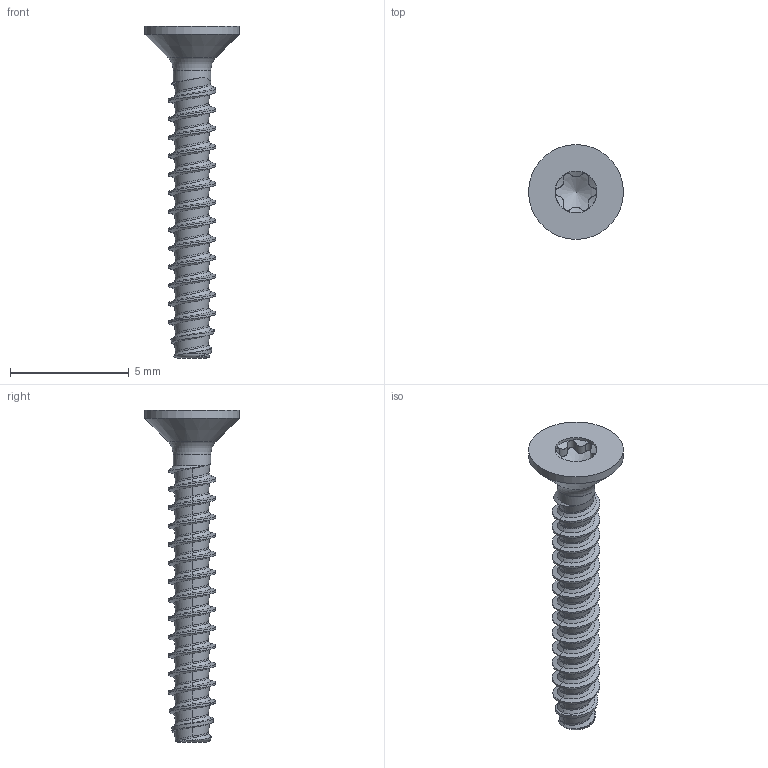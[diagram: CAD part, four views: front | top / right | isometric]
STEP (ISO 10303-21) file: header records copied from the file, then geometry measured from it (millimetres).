
FILE_DESCRIPTION(/* description */ (''),/* implementation_level */ '2;1');
FILE_NAME(/* name */ 'KN6041-STSplus-20x14-T6.step',/* time_stamp */ '2017-10-12T09:09:32+02:00',/* author */ (''),/* organization */ (''),/* preprocessor_version */ 'ST-DEVELOPER v16',/* originating_system */ 'SIEMENS PLM Software NX 10.0',/* authorisation */ '');
FILE_SCHEMA (('AUTOMOTIVE_DESIGN { 1 0 10303 214 3 1 1 1 }'));
Length unit declared in the file: millimetre
Products named in the file (1): KN6041-STSplus-20x14-T6
Bounding box: 4 x 4 x 14 mm (x, y, z)
Volume: 34 mm3; surface area: 127.2 mm2
Topology: 1 solids, 1 shells, 90 faces, 231 edges, 143 vertices
Faces by surface type: bspline 64, cylinder 17, cone 5, torus 2, plane 2
Full cylindrical faces by diameter (mm): 1.58 x1, 1.77 x1, 4 x1
Entity records: 6817 total; most frequent: CARTESIAN_POINT 5154, ORIENTED_EDGE 432, EDGE_CURVE 216, DIRECTION 147, VERTEX_POINT 137, B_SPLINE_CURVE_WITH_KNOTS 134, EDGE_LOOP 98, ADVANCED_FACE 90
